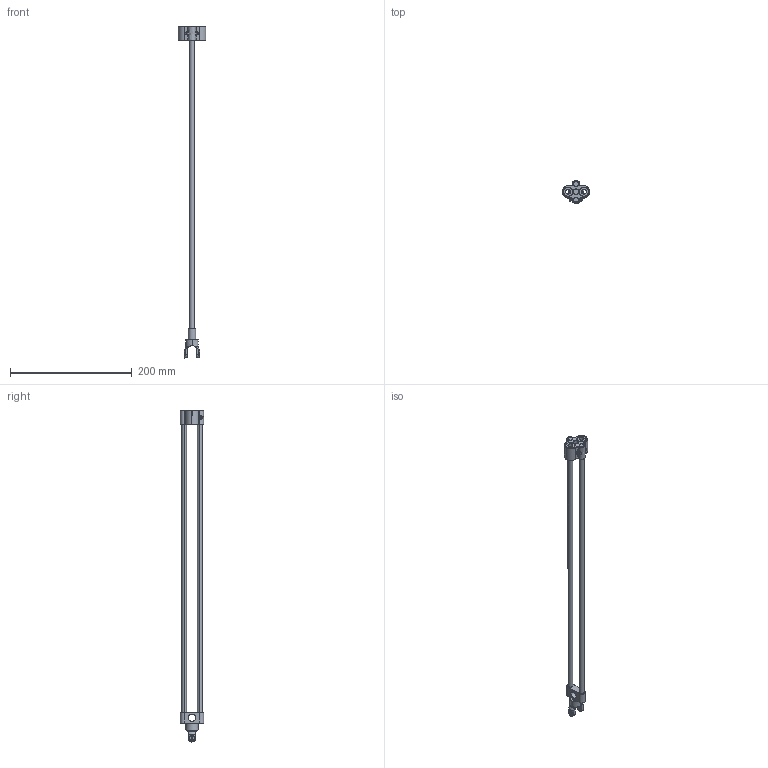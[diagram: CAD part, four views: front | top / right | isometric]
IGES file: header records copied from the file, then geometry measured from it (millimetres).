
Start section: SolidWorks IGES file using analytic representation for surfaces
Global section: file name: C:\Users\SELUHAA\Desktop\Work items\545792\IGES\IRB360_X-1130-WDS-4D_rev03_IGES_J\IRB360_X-1130-WDS-4D_rev03_ML_CAD.IGS; native system: SolidWorks 2022; preprocessor: SolidWorks 2022; author: SELUHAA; date: 231204.111519; units: millimetre
Bounding box: 45 x 38 x 545.81 mm (x, y, z)
Surface area: 45727.6 mm2 (no closed solid volume)
Topology: 0 solids, 0 shells, 264 faces, 3998 edges, 3988 vertices
Faces by surface type: revolution 169, bspline 95
